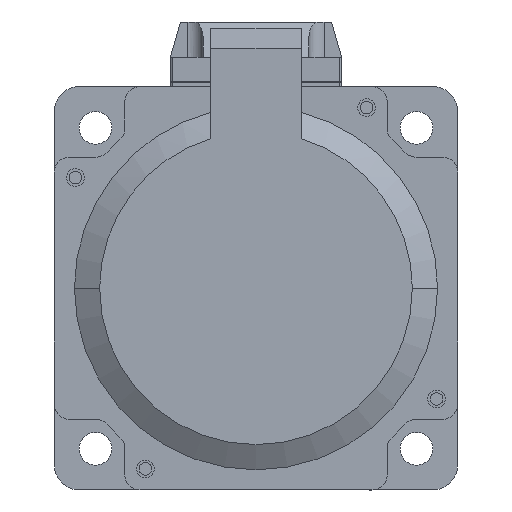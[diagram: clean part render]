
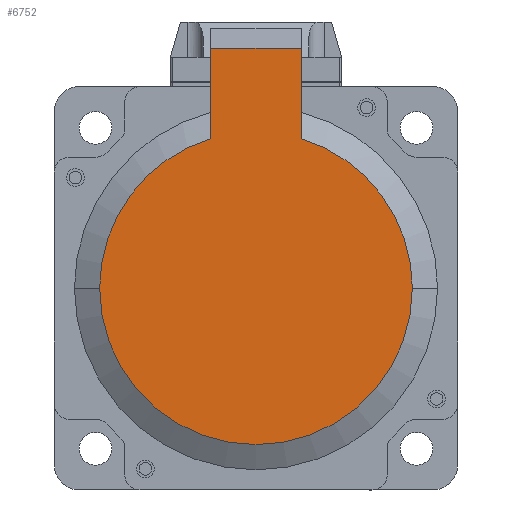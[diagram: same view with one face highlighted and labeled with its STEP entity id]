
A CAD part, left-side view. The second image highlights one B-rep face of the part: STEP entity #6752.
In plain terms, the highlighted planar face has unit normal (-1, 0, 0).
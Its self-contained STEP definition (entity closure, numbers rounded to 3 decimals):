
#210 = AXIS2_PLACEMENT_3D ( 'NONE', #59493, #43590, #59740 ) ;
#2220 = CARTESIAN_POINT ( 'NONE',  ( -152., -9., 47.549 ) ) ;
#4469 = VERTEX_POINT ( 'NONE', #24320 ) ;
#4485 = DIRECTION ( 'NONE',  ( -1., 0., 0. ) ) ;
#6752 = ADVANCED_FACE ( 'NONE', ( #27167 ), #31942, .T. ) ;
#11985 = VERTEX_POINT ( 'NONE', #38313 ) ;
#12625 = CARTESIAN_POINT ( 'NONE',  ( -152., 31., 0. ) ) ;
#14028 = CARTESIAN_POINT ( 'NONE',  ( -152., -9., 47.549 ) ) ;
#14215 = DIRECTION ( 'NONE',  ( 0., -1., 0. ) ) ;
#15145 = EDGE_CURVE ( 'NONE', #43841, #33467, #71510, .T. ) ;
#16308 = DIRECTION ( 'NONE',  ( 0., 1., 0. ) ) ;
#17637 = DIRECTION ( 'NONE',  ( 0., 1., 0. ) ) ;
#18192 = CIRCLE ( 'NONE', #63387, 31. ) ;
#18308 = EDGE_CURVE ( 'NONE', #4469, #43841, #35712, .T. ) ;
#20755 = VECTOR ( 'NONE', #14215, 1000. ) ;
#21538 = AXIS2_PLACEMENT_3D ( 'NONE', #25488, #63966, #64209 ) ;
#23682 = DIRECTION ( 'NONE',  ( 0., 0., 1. ) ) ;
#24320 = CARTESIAN_POINT ( 'NONE',  ( -152., 9., 29.665 ) ) ;
#25292 = CARTESIAN_POINT ( 'NONE',  ( -152., 9., 47.549 ) ) ;
#25488 = CARTESIAN_POINT ( 'NONE',  ( -152., 31., 0. ) ) ;
#25489 = CARTESIAN_POINT ( 'NONE',  ( -152., 9., 47.549 ) ) ;
#26799 = ORIENTED_EDGE ( 'NONE', *, *, #15145, .F. ) ;
#27167 = FACE_OUTER_BOUND ( 'NONE', #40656, .T. ) ;
#29102 = CIRCLE ( 'NONE', #63075, 31. ) ;
#30151 = CIRCLE ( 'NONE', #210, 31. ) ;
#30778 = DIRECTION ( 'NONE',  ( 0., 0., 1. ) ) ;
#31942 = PLANE ( 'NONE',  #21538 ) ;
#33171 = VECTOR ( 'NONE', #30778, 1000. ) ;
#33467 = VERTEX_POINT ( 'NONE', #14028 ) ;
#33795 = ORIENTED_EDGE ( 'NONE', *, *, #40484, .T. ) ;
#34887 = EDGE_CURVE ( 'NONE', #4469, #68873, #29102, .T. ) ;
#35689 = CARTESIAN_POINT ( 'NONE',  ( -152., -31., 0. ) ) ;
#35712 = LINE ( 'NONE', #25489, #33171 ) ;
#35754 = VERTEX_POINT ( 'NONE', #35689 ) ;
#38313 = CARTESIAN_POINT ( 'NONE',  ( -152., -9., 29.665 ) ) ;
#38475 = CARTESIAN_POINT ( 'NONE',  ( -152., 0., 0. ) ) ;
#40484 = EDGE_CURVE ( 'NONE', #35754, #11985, #18192, .T. ) ;
#40656 = EDGE_LOOP ( 'NONE', ( #64709, #40739, #67670, #33795, #47852, #26799 ) ) ;
#40739 = ORIENTED_EDGE ( 'NONE', *, *, #34887, .T. ) ;
#43590 = DIRECTION ( 'NONE',  ( -1., 0., 0. ) ) ;
#43841 = VERTEX_POINT ( 'NONE', #70704 ) ;
#45656 = VECTOR ( 'NONE', #23682, 1000. ) ;
#47161 = EDGE_CURVE ( 'NONE', #11985, #33467, #56899, .T. ) ;
#47852 = ORIENTED_EDGE ( 'NONE', *, *, #47161, .T. ) ;
#49115 = EDGE_CURVE ( 'NONE', #68873, #35754, #30151, .T. ) ;
#55925 = DIRECTION ( 'NONE',  ( -1., 0., 0. ) ) ;
#56148 = CARTESIAN_POINT ( 'NONE',  ( -152., 0., 0. ) ) ;
#56899 = LINE ( 'NONE', #2220, #45656 ) ;
#59493 = CARTESIAN_POINT ( 'NONE',  ( -152., 0., 0. ) ) ;
#59740 = DIRECTION ( 'NONE',  ( 0., 1., 0. ) ) ;
#63075 = AXIS2_PLACEMENT_3D ( 'NONE', #38475, #4485, #16308 ) ;
#63387 = AXIS2_PLACEMENT_3D ( 'NONE', #56148, #55925, #17637 ) ;
#63966 = DIRECTION ( 'NONE',  ( -1., 0., 0. ) ) ;
#64209 = DIRECTION ( 'NONE',  ( 0., 1., 0. ) ) ;
#64709 = ORIENTED_EDGE ( 'NONE', *, *, #18308, .F. ) ;
#67670 = ORIENTED_EDGE ( 'NONE', *, *, #49115, .T. ) ;
#68873 = VERTEX_POINT ( 'NONE', #12625 ) ;
#70704 = CARTESIAN_POINT ( 'NONE',  ( -152., 9., 47.549 ) ) ;
#71510 = LINE ( 'NONE', #25292, #20755 ) ;
